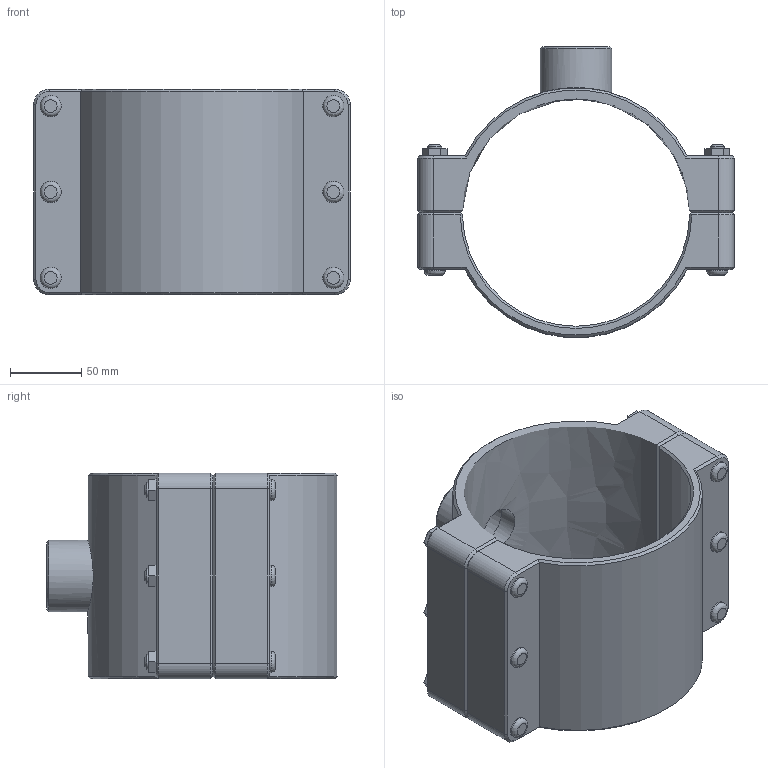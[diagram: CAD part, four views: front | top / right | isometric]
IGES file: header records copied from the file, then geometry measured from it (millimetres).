
Global section: file name: 160760160013_160860160013.ipt; native system: Autodesk Inventor 2015; preprocessor: unknown; author: KIM; date: 20170618.093606; units: millimetre
Bounding box: 223 x 204.69 x 145 mm (x, y, z)
Volume: 1247101.9 mm3; surface area: 209147.3 mm2
Topology: 1 solids, 1 shells, 169 faces, 394 edges, 249 vertices
Faces by surface type: plane 100, cylinder 29, cone 27, revolution 13
Full cylindrical faces by diameter (mm): 10 x6, 15 x12, 50.638 x1
